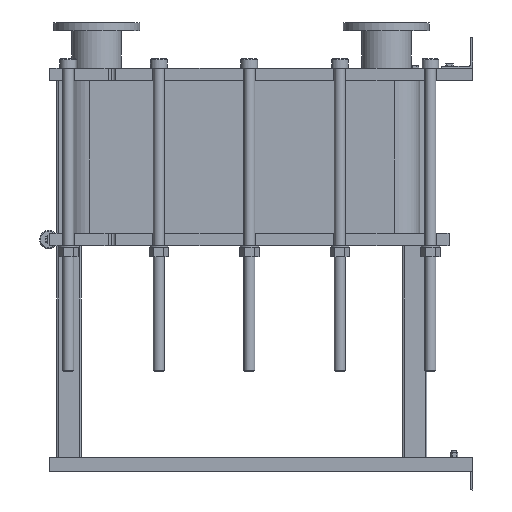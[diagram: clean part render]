
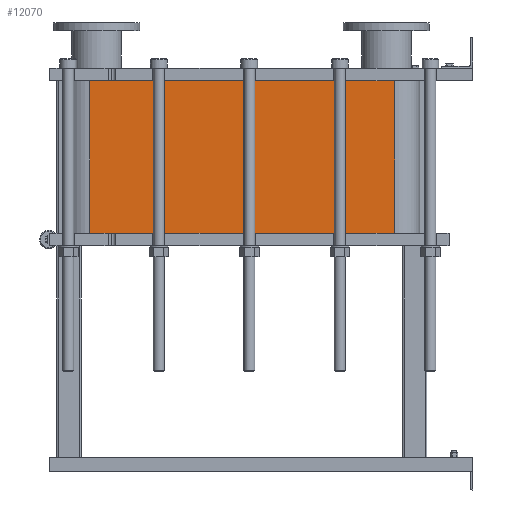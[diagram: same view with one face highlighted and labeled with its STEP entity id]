
A CAD part, left-side view. The second image highlights one B-rep face of the part: STEP entity #12070.
In plain terms, the highlighted planar face has unit normal (-1, 0, 0).
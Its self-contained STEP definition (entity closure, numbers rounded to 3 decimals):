
#1064=LINE('',#21140,#2164);
#1065=LINE('',#21144,#2165);
#1066=LINE('',#21146,#2166);
#1067=LINE('',#21147,#2167);
#2164=VECTOR('',#15790,10.);
#2165=VECTOR('',#15795,10.);
#2166=VECTOR('',#15796,10.);
#2167=VECTOR('',#15797,10.);
#3304=FACE_OUTER_BOUND('',#4091,.T.);
#4091=EDGE_LOOP('',(#9793,#9794,#9795,#9796));
#5677=VERTEX_POINT('',#21137);
#5678=VERTEX_POINT('',#21139);
#5679=VERTEX_POINT('',#21143);
#5680=VERTEX_POINT('',#21145);
#7118=EDGE_CURVE('',#5678,#5677,#1064,.T.);
#7120=EDGE_CURVE('',#5677,#5679,#1065,.T.);
#7121=EDGE_CURVE('',#5680,#5679,#1066,.T.);
#7122=EDGE_CURVE('',#5680,#5678,#1067,.T.);
#9793=ORIENTED_EDGE('',*,*,#7120,.T.);
#9794=ORIENTED_EDGE('',*,*,#7121,.F.);
#9795=ORIENTED_EDGE('',*,*,#7122,.T.);
#9796=ORIENTED_EDGE('',*,*,#7118,.T.);
#11441=PLANE('',#13191);
#12070=ADVANCED_FACE('',(#3304),#11441,.T.);
#13191=AXIS2_PLACEMENT_3D('',#21142,#15793,#15794);
#15790=DIRECTION('',(0.,0.,-1.));
#15793=DIRECTION('center_axis',(-1.,0.,0.));
#15794=DIRECTION('ref_axis',(0.,1.,0.));
#15795=DIRECTION('',(0.,-1.,0.));
#15796=DIRECTION('',(0.,0.,-1.));
#15797=DIRECTION('',(0.,1.,0.));
#21137=CARTESIAN_POINT('',(-248.152,1243.818,-496.8));
#21139=CARTESIAN_POINT('',(-248.152,1243.818,0.));
#21140=CARTESIAN_POINT('',(-248.152,1243.818,0.));
#21142=CARTESIAN_POINT('Origin',(-248.152,251.818,0.));
#21143=CARTESIAN_POINT('',(-248.152,251.818,-496.8));
#21144=CARTESIAN_POINT('',(-248.152,499.818,-496.8));
#21145=CARTESIAN_POINT('',(-248.152,251.818,0.));
#21146=CARTESIAN_POINT('',(-248.152,251.818,0.));
#21147=CARTESIAN_POINT('',(-248.152,251.818,0.));
